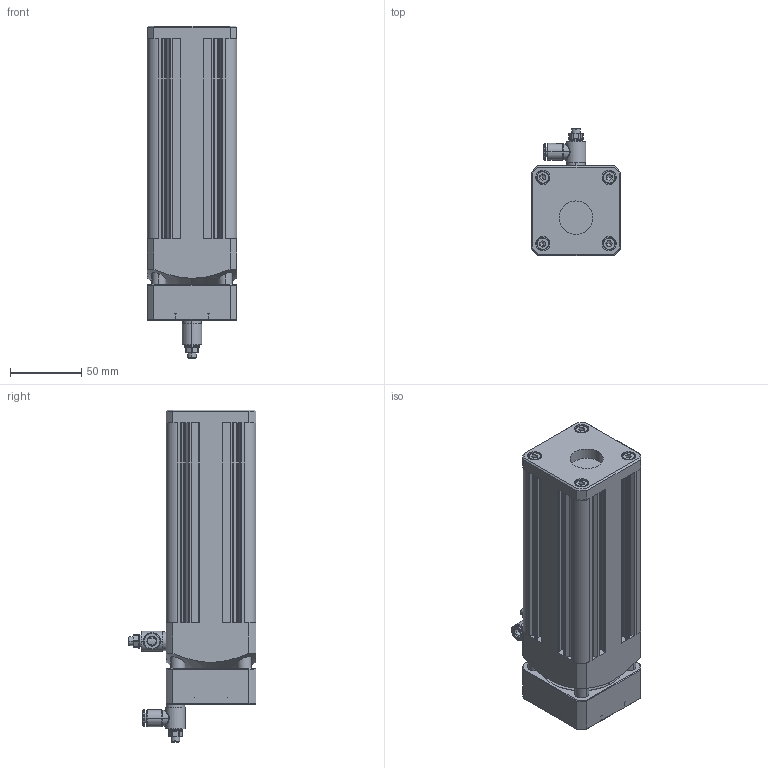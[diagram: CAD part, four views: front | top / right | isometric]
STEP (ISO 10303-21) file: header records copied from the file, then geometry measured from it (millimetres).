
FILE_DESCRIPTION (( 'STEP AP203' ), '1' );
FILE_NAME ('VNOK-D-AL-E-0050-0140.STEP', '2019-02-06T12:56:30', ( '' ), ( '' ), 'SwSTEP 2.0', 'SolidWorks 2018', '' );
FILE_SCHEMA (( 'CONFIG_CONTROL_DESIGN' ));
Length unit declared in the file: millimetre
Products named in the file (1): VNOK-D-AL-E-0050-0140
Bounding box: 63 x 89.6 x 232.65 mm (x, y, z)
Volume: 749521.8 mm3; surface area: 86632 mm2
Topology: 1 solids, 19 shells, 907 faces, 2306 edges, 1465 vertices
Faces by surface type: plane 456, cylinder 290, cone 90, bspline 71
Entity records: 33396 total; most frequent: CARTESIAN_POINT 11487, DIRECTION 4638, ORIENTED_EDGE 4548, EDGE_CURVE 2274, AXIS2_PLACEMENT_3D 1759, VERTEX_POINT 1465, LINE 1120, VECTOR 1120
